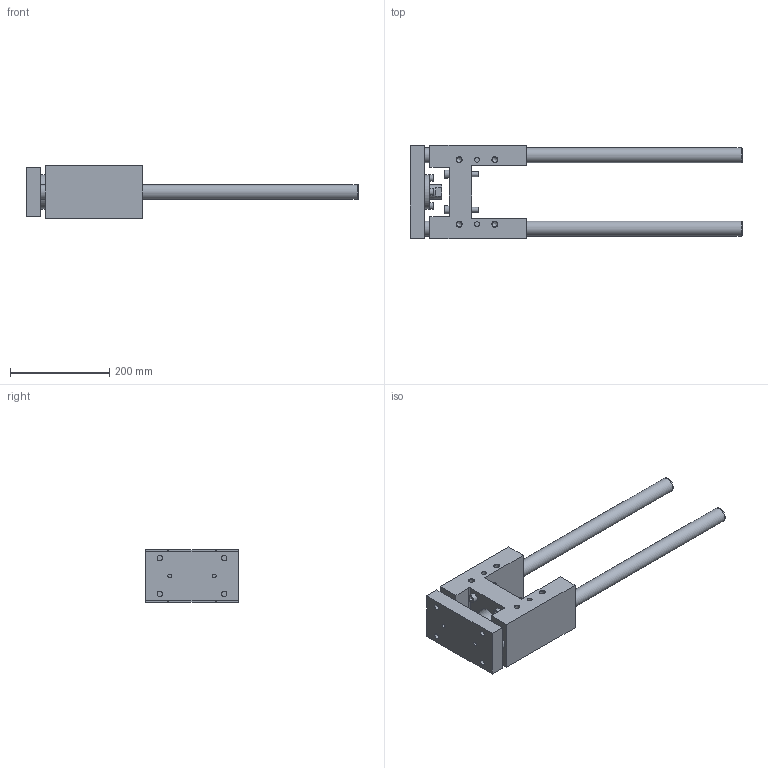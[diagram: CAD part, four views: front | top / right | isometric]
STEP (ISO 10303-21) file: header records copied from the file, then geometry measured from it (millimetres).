
FILE_DESCRIPTION( ( 'STEP AP214' ), '1' );
FILE_NAME( 'U:/Etudes/Top Solid/BIBLIO 3D AVM/TOP/PNEUMATIQUE/GUIDAGES/Type 32 (en H)/R_Renforcée/328R7130.step', '2005-05-27T09:11:54', ( ' ' ), ( ' ' ), 'XStep 1.0', ' ', ' ' );
FILE_SCHEMA( ( 'automotive_design' ) );
Length unit declared in the file: metre
Products named in the file (2): 1; 2
Bounding box: 669 x 189 x 105 mm (x, y, z)
Volume: 3338985.9 mm3; surface area: 407055.4 mm2
Topology: 2 solids, 7 shells, 209 faces, 472 edges, 313 vertices
Faces by surface type: plane 118, cylinder 70, cone 21
Full cylindrical faces by diameter (mm): 8 x10, 8.5 x4, 10 x10, 10.106 x12, 11 x8, 13 x4, 16 x4, 18 x4, 18.376 x2, 29 x1, 30 x4, 32 x1, 42 x1, 45 x2, 70 x1
Entity records: 7075 total; most frequent: CARTESIAN_POINT 1101, DIRECTION 894, ORIENTED_EDGE 690, EDGE_LOOP 362, AXIS2_PLACEMENT_3D 346, EDGE_CURVE 345, VERTEX_POINT 281, FACE_OUTER_BOUND 277
